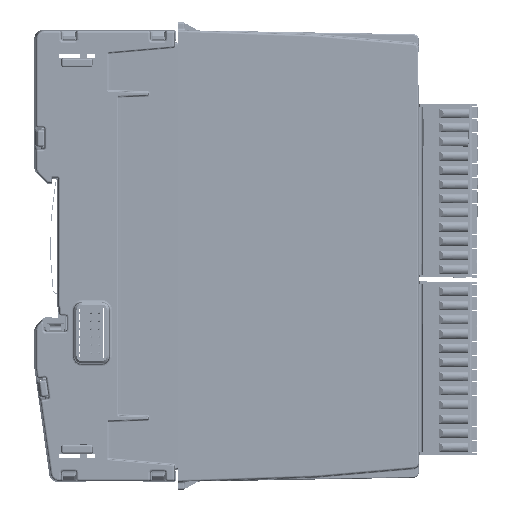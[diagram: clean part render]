
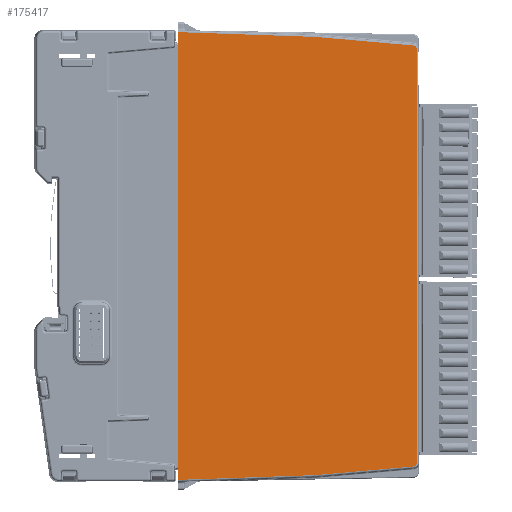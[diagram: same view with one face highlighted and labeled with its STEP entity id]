
A CAD part, left-side view. The second image highlights one B-rep face of the part: STEP entity #175417.
In plain terms, the highlighted planar face has unit normal (-1, -0.018, 0).
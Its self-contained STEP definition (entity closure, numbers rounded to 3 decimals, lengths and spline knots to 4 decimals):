
#5766=ELLIPSE('',#188393,0.0315,0.0315);
#5767=ELLIPSE('',#188394,0.0315,0.0315);
#9537=PLANE('',#188392);
#17404=FACE_OUTER_BOUND('',#27152,.T.);
#27152=EDGE_LOOP('',(#141633,#141634,#141635,#141636,#141637,#141638,#141639,
#141640,#141641,#141642));
#47950=LINE('',#290330,#65176);
#47951=LINE('',#290332,#65177);
#47952=LINE('',#290334,#65178);
#47953=LINE('',#290336,#65179);
#47954=LINE('',#290338,#65180);
#47955=LINE('',#290342,#65181);
#47956=LINE('',#290346,#65182);
#47957=LINE('',#290347,#65183);
#65176=VECTOR('',#222754,39.3701);
#65177=VECTOR('',#222755,39.3701);
#65178=VECTOR('',#222756,39.3701);
#65179=VECTOR('',#222757,39.3701);
#65180=VECTOR('',#222758,39.3701);
#65181=VECTOR('',#222761,39.3701);
#65182=VECTOR('',#222764,39.3701);
#65183=VECTOR('',#222765,39.3701);
#81442=VERTEX_POINT('',#290328);
#81443=VERTEX_POINT('',#290329);
#81444=VERTEX_POINT('',#290331);
#81445=VERTEX_POINT('',#290333);
#81446=VERTEX_POINT('',#290335);
#81447=VERTEX_POINT('',#290337);
#81448=VERTEX_POINT('',#290339);
#81449=VERTEX_POINT('',#290341);
#81450=VERTEX_POINT('',#290343);
#81451=VERTEX_POINT('',#290345);
#102511=EDGE_CURVE('',#81442,#81443,#47950,.T.);
#102512=EDGE_CURVE('',#81444,#81443,#47951,.T.);
#102513=EDGE_CURVE('',#81444,#81445,#47952,.T.);
#102514=EDGE_CURVE('',#81445,#81446,#47953,.T.);
#102515=EDGE_CURVE('',#81446,#81447,#47954,.T.);
#102516=EDGE_CURVE('',#81447,#81448,#5766,.T.);
#102517=EDGE_CURVE('',#81448,#81449,#47955,.T.);
#102518=EDGE_CURVE('',#81449,#81450,#5767,.T.);
#102519=EDGE_CURVE('',#81450,#81451,#47956,.T.);
#102520=EDGE_CURVE('',#81451,#81442,#47957,.T.);
#141633=ORIENTED_EDGE('',*,*,#102511,.T.);
#141634=ORIENTED_EDGE('',*,*,#102512,.F.);
#141635=ORIENTED_EDGE('',*,*,#102513,.T.);
#141636=ORIENTED_EDGE('',*,*,#102514,.T.);
#141637=ORIENTED_EDGE('',*,*,#102515,.T.);
#141638=ORIENTED_EDGE('',*,*,#102516,.T.);
#141639=ORIENTED_EDGE('',*,*,#102517,.T.);
#141640=ORIENTED_EDGE('',*,*,#102518,.T.);
#141641=ORIENTED_EDGE('',*,*,#102519,.T.);
#141642=ORIENTED_EDGE('',*,*,#102520,.T.);
#175417=ADVANCED_FACE('',(#17404),#9537,.T.);
#188392=AXIS2_PLACEMENT_3D('',#290327,#222752,#222753);
#188393=AXIS2_PLACEMENT_3D('',#290340,#222759,#222760);
#188394=AXIS2_PLACEMENT_3D('',#290344,#222762,#222763);
#222752=DIRECTION('center_axis',(-1.,-0.017,
0.));
#222753=DIRECTION('ref_axis',(-0.017,1.,0.));
#222754=DIRECTION('',(0.,0.,-1.));
#222755=DIRECTION('',(0.,0.,1.));
#222756=DIRECTION('',(0.,0.,-1.));
#222757=DIRECTION('',(0.017,-0.999,0.035));
#222758=DIRECTION('',(0.017,-0.996,0.087));
#222759=DIRECTION('center_axis',(-1.,-0.017,
0.));
#222760=DIRECTION('ref_axis',(0.017,-1.,0.));
#222761=DIRECTION('',(0.,0.,1.));
#222762=DIRECTION('center_axis',(-1.,-0.017,
0.));
#222763=DIRECTION('ref_axis',(0.017,-1.,0.));
#222764=DIRECTION('',(-0.017,0.996,0.087));
#222765=DIRECTION('',(-0.017,0.999,0.035));
#290327=CARTESIAN_POINT('Origin',(-0.0296,-0.489,
-2.0669));
#290328=CARTESIAN_POINT('',(-0.0227,-0.8827,0.1083));
#290329=CARTESIAN_POINT('',(-0.0227,-0.8827,-0.0312));
#290330=CARTESIAN_POINT('',(-0.0227,-0.8827,0.128));
#290331=CARTESIAN_POINT('',(-0.0227,-0.8827,-4.1027));
#290332=CARTESIAN_POINT('',(-0.0227,-0.8827,-7.5932));
#290333=CARTESIAN_POINT('',(-0.0227,-0.8827,-4.2421));
#290334=CARTESIAN_POINT('',(-0.0227,-0.8827,0.128));
#290335=CARTESIAN_POINT('',(0.0007,-2.2205,-4.1954));
#290336=CARTESIAN_POINT('',(-0.0282,-0.5654,-4.2532));
#290337=CARTESIAN_POINT('',(0.0174,-3.1772,-4.1117));
#290338=CARTESIAN_POINT('',(-0.0261,-0.6869,-4.3296));
#290339=CARTESIAN_POINT('',(0.0179,-3.2059,-4.0803));
#290340=CARTESIAN_POINT('Origin',(0.0173,-3.1744,
-4.0803));
#290341=CARTESIAN_POINT('',(0.0179,-3.2059,-0.0535));
#290342=CARTESIAN_POINT('',(0.0179,-3.2059,-0.0535));
#290343=CARTESIAN_POINT('',(0.0174,-3.1772,-0.0221));
#290344=CARTESIAN_POINT('Origin',(0.0173,-3.1744,
-0.0535));
#290345=CARTESIAN_POINT('',(0.0007,-2.2205,0.0616));
#290346=CARTESIAN_POINT('',(-0.0261,-0.6869,0.1957));
#290347=CARTESIAN_POINT('',(-0.0282,-0.5654,0.1194));
